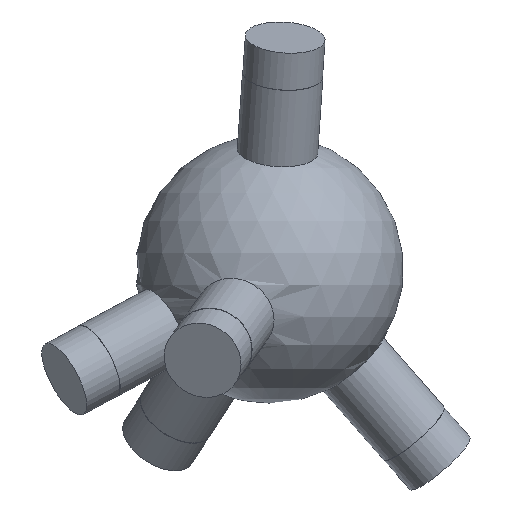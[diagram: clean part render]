
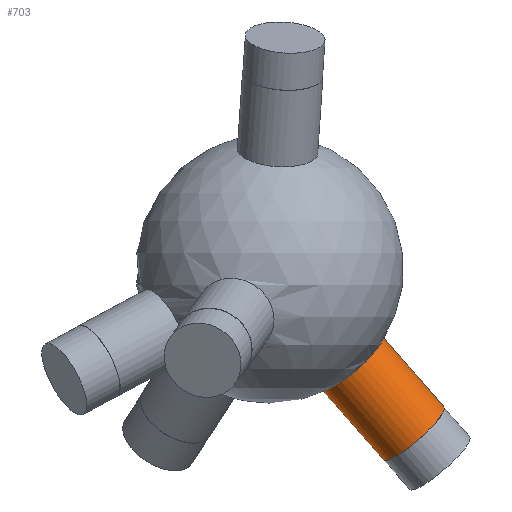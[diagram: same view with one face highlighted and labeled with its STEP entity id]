
A CAD part, front view. The second image highlights one B-rep face of the part: STEP entity #703.
In plain terms, the highlighted cylindrical face has radius 6 mm (diameter 12 mm), a full revolution.
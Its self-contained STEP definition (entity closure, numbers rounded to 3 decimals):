
#22 = VERTEX_POINT('',#23);
#23 = CARTESIAN_POINT('',(16.287,0.,
    -11.607));
#33 = SPHERICAL_SURFACE('',#34,20.);
#34 = AXIS2_PLACEMENT_3D('',#35,#36,#37);
#35 = CARTESIAN_POINT('',(0.,0.,0.));
#36 = DIRECTION('',(0.,0.,1.));
#37 = DIRECTION('',(1.,0.,-0.));
#53 = EDGE_CURVE('',#54,#22,#56,.T.);
#54 = VERTEX_POINT('',#55);
#55 = CARTESIAN_POINT('',(7.817,3.783,-18.016)
  );
#56 = SURFACE_CURVE('',#57,(#62,#96),.PCURVE_S1.);
#57 = CIRCLE('',#58,6.);
#58 = AXIS2_PLACEMENT_3D('',#59,#60,#61);
#59 = CARTESIAN_POINT('',(12.329,3.783,-14.06
    ));
#60 = DIRECTION('',(0.646,0.198,-0.737));
#61 = DIRECTION('',(0.752,0.,0.659));
#62 = PCURVE('',#33,#63);
#63 = DEFINITIONAL_REPRESENTATION('',(#64),#95);
#64 = B_SPLINE_CURVE_WITH_KNOTS('',8,(#65,#66,#67,#68,#69,#70,#71,#72,
    #73,#74,#75,#76,#77,#78,#79,#80,#81,#82,#83,#84,#85,#86,#87,#88,#89,
    #90,#91,#92,#93,#94),.UNSPECIFIED.,.F.,.F.,(9,7,7,7,9),(
    3.142,3.622,4.462,5.722,
    6.982),.UNSPECIFIED.);
#65 = CARTESIAN_POINT('',(0.451,-1.122));
#66 = CARTESIAN_POINT('',(0.49,-1.115));
#67 = CARTESIAN_POINT('',(0.526,-1.107));
#68 = CARTESIAN_POINT('',(0.561,-1.098));
#69 = CARTESIAN_POINT('',(0.592,-1.087));
#70 = CARTESIAN_POINT('',(0.62,-1.074));
#71 = CARTESIAN_POINT('',(0.644,-1.061));
#72 = CARTESIAN_POINT('',(0.666,-1.046));
#73 = CARTESIAN_POINT('',(0.717,-1.004));
#74 = CARTESIAN_POINT('',(0.74,-0.975));
#75 = CARTESIAN_POINT('',(0.754,-0.944));
#76 = CARTESIAN_POINT('',(0.762,-0.913));
#77 = CARTESIAN_POINT('',(0.763,-0.881));
#78 = CARTESIAN_POINT('',(0.758,-0.849));
#79 = CARTESIAN_POINT('',(0.75,-0.818));
#80 = CARTESIAN_POINT('',(0.718,-0.742));
#81 = CARTESIAN_POINT('',(0.689,-0.699));
#82 = CARTESIAN_POINT('',(0.654,-0.66));
#83 = CARTESIAN_POINT('',(0.613,-0.624));
#84 = CARTESIAN_POINT('',(0.568,-0.593));
#85 = CARTESIAN_POINT('',(0.519,-0.568));
#86 = CARTESIAN_POINT('',(0.467,-0.55));
#87 = CARTESIAN_POINT('',(0.361,-0.525));
#88 = CARTESIAN_POINT('',(0.306,-0.519));
#89 = CARTESIAN_POINT('',(0.251,-0.52));
#90 = CARTESIAN_POINT('',(0.196,-0.527));
#91 = CARTESIAN_POINT('',(0.143,-0.541));
#92 = CARTESIAN_POINT('',(0.091,-0.562));
#93 = CARTESIAN_POINT('',(0.044,-0.588));
#94 = CARTESIAN_POINT('',(0.,-0.619));
#95 = ( GEOMETRIC_REPRESENTATION_CONTEXT(2) 
PARAMETRIC_REPRESENTATION_CONTEXT() REPRESENTATION_CONTEXT('2D SPACE',''
  ) );
#96 = PCURVE('',#97,#102);
#97 = CYLINDRICAL_SURFACE('',#98,6.);
#98 = AXIS2_PLACEMENT_3D('',#99,#100,#101);
#99 = CARTESIAN_POINT('',(0.,0.,0.));
#100 = DIRECTION('',(0.646,0.198,-0.737));
#101 = DIRECTION('',(-0.752,0.,-0.659
    ));
#102 = DEFINITIONAL_REPRESENTATION('',(#103),#107);
#103 = LINE('',#104,#105);
#104 = CARTESIAN_POINT('',(-3.142,19.079));
#105 = VECTOR('',#106,1.);
#106 = DIRECTION('',(1.,0.));
#107 = ( GEOMETRIC_REPRESENTATION_CONTEXT(2) 
PARAMETRIC_REPRESENTATION_CONTEXT() REPRESENTATION_CONTEXT('2D SPACE',''
  ) );
#109 = EDGE_CURVE('',#110,#54,#112,.T.);
#110 = VERTEX_POINT('',#111);
#111 = CARTESIAN_POINT('',(9.379,0.,
    -17.665));
#112 = SURFACE_CURVE('',#113,(#118,#136),.PCURVE_S1.);
#113 = CIRCLE('',#114,6.);
#114 = AXIS2_PLACEMENT_3D('',#115,#116,#117);
#115 = CARTESIAN_POINT('',(12.329,3.783,
    -14.06));
#116 = DIRECTION('',(0.646,0.198,-0.737));
#117 = DIRECTION('',(0.752,0.,0.659));
#118 = PCURVE('',#33,#119);
#119 = DEFINITIONAL_REPRESENTATION('',(#120),#135);
#120 = B_SPLINE_CURVE_WITH_KNOTS('',7,(#121,#122,#123,#124,#125,#126,
    #127,#128,#129,#130,#131,#132,#133,#134),.UNSPECIFIED.,.F.,.F.,(8,6,
    8),(2.443,2.792,3.142),.UNSPECIFIED.);
#121 = CARTESIAN_POINT('',(0.,-1.083));
#122 = CARTESIAN_POINT('',(0.024,-1.093));
#123 = CARTESIAN_POINT('',(0.05,-1.102));
#124 = CARTESIAN_POINT('',(0.078,-1.11));
#125 = CARTESIAN_POINT('',(0.109,-1.116));
#126 = CARTESIAN_POINT('',(0.141,-1.122));
#127 = CARTESIAN_POINT('',(0.174,-1.126));
#128 = CARTESIAN_POINT('',(0.243,-1.132));
#129 = CARTESIAN_POINT('',(0.278,-1.134));
#130 = CARTESIAN_POINT('',(0.314,-1.134));
#131 = CARTESIAN_POINT('',(0.349,-1.133));
#132 = CARTESIAN_POINT('',(0.384,-1.131));
#133 = CARTESIAN_POINT('',(0.418,-1.127));
#134 = CARTESIAN_POINT('',(0.451,-1.122));
#135 = ( GEOMETRIC_REPRESENTATION_CONTEXT(2) 
PARAMETRIC_REPRESENTATION_CONTEXT() REPRESENTATION_CONTEXT('2D SPACE',''
  ) );
#136 = PCURVE('',#97,#137);
#137 = DEFINITIONAL_REPRESENTATION('',(#138),#142);
#138 = LINE('',#139,#140);
#139 = CARTESIAN_POINT('',(3.142,19.079));
#140 = VECTOR('',#141,1.);
#141 = DIRECTION('',(1.,0.));
#142 = ( GEOMETRIC_REPRESENTATION_CONTEXT(2) 
PARAMETRIC_REPRESENTATION_CONTEXT() REPRESENTATION_CONTEXT('2D SPACE',''
  ) );
#169 = EDGE_CURVE('',#22,#110,#170,.T.);
#170 = SURFACE_CURVE('',#171,(#176,#203),.PCURVE_S1.);
#171 = CIRCLE('',#172,6.);
#172 = AXIS2_PLACEMENT_3D('',#173,#174,#175);
#173 = CARTESIAN_POINT('',(12.329,3.783,
    -14.06));
#174 = DIRECTION('',(0.646,0.198,-0.737));
#175 = DIRECTION('',(0.752,0.,0.659));
#176 = PCURVE('',#33,#177);
#177 = DEFINITIONAL_REPRESENTATION('',(#178),#202);
#178 = B_SPLINE_CURVE_WITH_KNOTS('',8,(#179,#180,#181,#182,#183,#184,
    #185,#186,#187,#188,#189,#190,#191,#192,#193,#194,#195,#196,#197,
    #198,#199,#200,#201),.UNSPECIFIED.,.F.,.F.,(9,7,7,9),(0.699
    ,1.571,2.007,2.443),.UNSPECIFIED.);
#179 = CARTESIAN_POINT('',(6.283,-0.619));
#180 = CARTESIAN_POINT('',(6.253,-0.641));
#181 = CARTESIAN_POINT('',(6.225,-0.665));
#182 = CARTESIAN_POINT('',(6.199,-0.691));
#183 = CARTESIAN_POINT('',(6.177,-0.719));
#184 = CARTESIAN_POINT('',(6.157,-0.749));
#185 = CARTESIAN_POINT('',(6.142,-0.78));
#186 = CARTESIAN_POINT('',(6.13,-0.812));
#187 = CARTESIAN_POINT('',(6.122,-0.861));
#188 = CARTESIAN_POINT('',(6.12,-0.877));
#189 = CARTESIAN_POINT('',(6.12,-0.894));
#190 = CARTESIAN_POINT('',(6.121,-0.91));
#191 = CARTESIAN_POINT('',(6.124,-0.926));
#192 = CARTESIAN_POINT('',(6.129,-0.942));
#193 = CARTESIAN_POINT('',(6.136,-0.958));
#194 = CARTESIAN_POINT('',(6.154,-0.989));
#195 = CARTESIAN_POINT('',(6.165,-1.005));
#196 = CARTESIAN_POINT('',(6.178,-1.019));
#197 = CARTESIAN_POINT('',(6.194,-1.034));
#198 = CARTESIAN_POINT('',(6.213,-1.047));
#199 = CARTESIAN_POINT('',(6.233,-1.06));
#200 = CARTESIAN_POINT('',(6.257,-1.072));
#201 = CARTESIAN_POINT('',(6.283,-1.083));
#202 = ( GEOMETRIC_REPRESENTATION_CONTEXT(2) 
PARAMETRIC_REPRESENTATION_CONTEXT() REPRESENTATION_CONTEXT('2D SPACE',''
  ) );
#203 = PCURVE('',#97,#204);
#204 = DEFINITIONAL_REPRESENTATION('',(#205),#209);
#205 = LINE('',#206,#207);
#206 = CARTESIAN_POINT('',(3.142,19.079));
#207 = VECTOR('',#208,1.);
#208 = DIRECTION('',(1.,0.));
#209 = ( GEOMETRIC_REPRESENTATION_CONTEXT(2) 
PARAMETRIC_REPRESENTATION_CONTEXT() REPRESENTATION_CONTEXT('2D SPACE',''
  ) );
#703 = ADVANCED_FACE('',(#704),#97,.T.);
#704 = FACE_BOUND('',#705,.T.);
#705 = EDGE_LOOP('',(#706,#729,#756,#757,#758,#759));
#706 = ORIENTED_EDGE('',*,*,#707,.T.);
#707 = EDGE_CURVE('',#54,#708,#710,.T.);
#708 = VERTEX_POINT('',#709);
#709 = CARTESIAN_POINT('',(16.978,6.593,-28.464
    ));
#710 = SEAM_CURVE('',#711,(#715,#722),.PCURVE_S1.);
#711 = LINE('',#712,#713);
#712 = CARTESIAN_POINT('',(-4.511,0.,
    -3.956));
#713 = VECTOR('',#714,1.);
#714 = DIRECTION('',(0.646,0.198,-0.737));
#715 = PCURVE('',#97,#716);
#716 = DEFINITIONAL_REPRESENTATION('',(#717),#721);
#717 = LINE('',#718,#719);
#718 = CARTESIAN_POINT('',(6.283,-0.));
#719 = VECTOR('',#720,1.);
#720 = DIRECTION('',(0.,1.));
#721 = ( GEOMETRIC_REPRESENTATION_CONTEXT(2) 
PARAMETRIC_REPRESENTATION_CONTEXT() REPRESENTATION_CONTEXT('2D SPACE',''
  ) );
#722 = PCURVE('',#97,#723);
#723 = DEFINITIONAL_REPRESENTATION('',(#724),#728);
#724 = LINE('',#725,#726);
#725 = CARTESIAN_POINT('',(0.,-0.));
#726 = VECTOR('',#727,1.);
#727 = DIRECTION('',(0.,1.));
#728 = ( GEOMETRIC_REPRESENTATION_CONTEXT(2) 
PARAMETRIC_REPRESENTATION_CONTEXT() REPRESENTATION_CONTEXT('2D SPACE',''
  ) );
#729 = ORIENTED_EDGE('',*,*,#730,.F.);
#730 = EDGE_CURVE('',#708,#708,#731,.T.);
#731 = SURFACE_CURVE('',#732,(#737,#744),.PCURVE_S1.);
#732 = CIRCLE('',#733,6.);
#733 = AXIS2_PLACEMENT_3D('',#734,#735,#736);
#734 = CARTESIAN_POINT('',(21.489,6.593,
    -24.508));
#735 = DIRECTION('',(0.646,0.198,-0.737));
#736 = DIRECTION('',(-0.752,0.,-0.659
    ));
#737 = PCURVE('',#97,#738);
#738 = DEFINITIONAL_REPRESENTATION('',(#739),#743);
#739 = LINE('',#740,#741);
#740 = CARTESIAN_POINT('',(0.,33.255));
#741 = VECTOR('',#742,1.);
#742 = DIRECTION('',(1.,0.));
#743 = ( GEOMETRIC_REPRESENTATION_CONTEXT(2) 
PARAMETRIC_REPRESENTATION_CONTEXT() REPRESENTATION_CONTEXT('2D SPACE',''
  ) );
#744 = PCURVE('',#745,#750);
#745 = PLANE('',#746);
#746 = AXIS2_PLACEMENT_3D('',#747,#748,#749);
#747 = CARTESIAN_POINT('',(21.489,6.593,
    -24.508));
#748 = DIRECTION('',(0.646,0.198,-0.737));
#749 = DIRECTION('',(-0.752,0.,-0.659
    ));
#750 = DEFINITIONAL_REPRESENTATION('',(#751),#755);
#751 = CIRCLE('',#752,6.);
#752 = AXIS2_PLACEMENT_2D('',#753,#754);
#753 = CARTESIAN_POINT('',(0.,0.));
#754 = DIRECTION('',(1.,0.));
#755 = ( GEOMETRIC_REPRESENTATION_CONTEXT(2) 
PARAMETRIC_REPRESENTATION_CONTEXT() REPRESENTATION_CONTEXT('2D SPACE',''
  ) );
#756 = ORIENTED_EDGE('',*,*,#707,.F.);
#757 = ORIENTED_EDGE('',*,*,#53,.T.);
#758 = ORIENTED_EDGE('',*,*,#169,.T.);
#759 = ORIENTED_EDGE('',*,*,#109,.T.);
